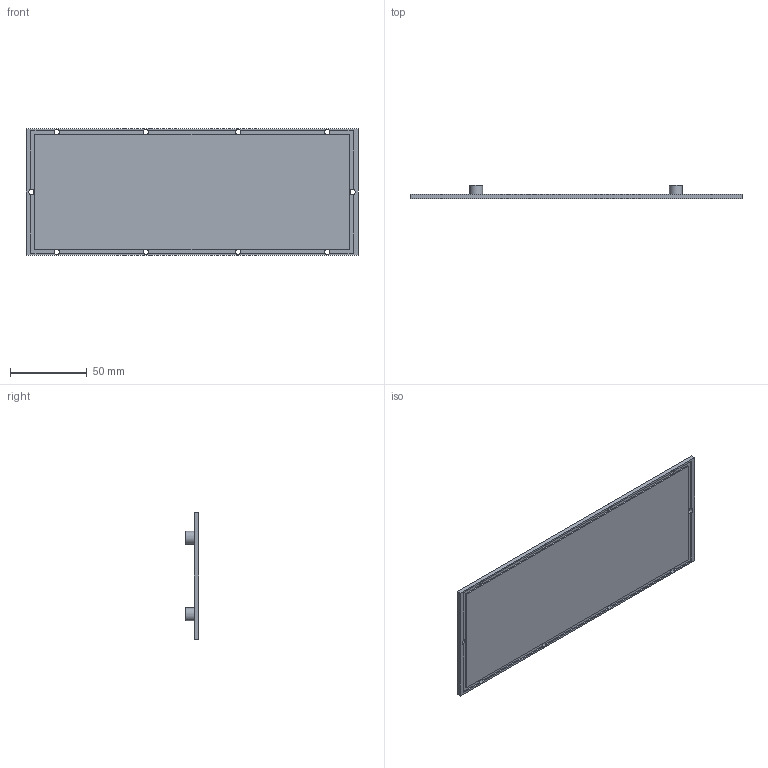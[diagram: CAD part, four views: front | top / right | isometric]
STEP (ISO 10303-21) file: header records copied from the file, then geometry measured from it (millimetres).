
FILE_DESCRIPTION(('Open CASCADE Model'),'2;1');
FILE_NAME('Open CASCADE Shape Model','2026-08-16T15:13:29',('Author'),( 'Open CASCADE'),'Open CASCADE STEP processor 7.9','Open CASCADE 7.9' ,'Unknown');
FILE_SCHEMA(('AUTOMOTIVE_DESIGN { 1 0 10303 214 1 1 1 1 }'));
Length unit declared in the file: millimetre
Products named in the file (1): Open CASCADE STEP translator 7.9 3
Bounding box: 216 x 8.8 x 82 mm (x, y, z)
Volume: 49079.4 mm3; surface area: 39068.4 mm2
Topology: 1 solids, 1 shells, 52 faces, 150 edges, 100 vertices
Faces by surface type: plane 34, cylinder 18
Full cylindrical faces by diameter (mm): 3.5 x10, 4.2 x4, 8.4 x4
Entity records: 3658 total; most frequent: CARTESIAN_POINT 675, DIRECTION 540, ORIENTED_EDGE 300, PCURVE 300, DEFINITIONAL_REPRESENTATION 300, LINE 266, VECTOR 266, EDGE_CURVE 150
